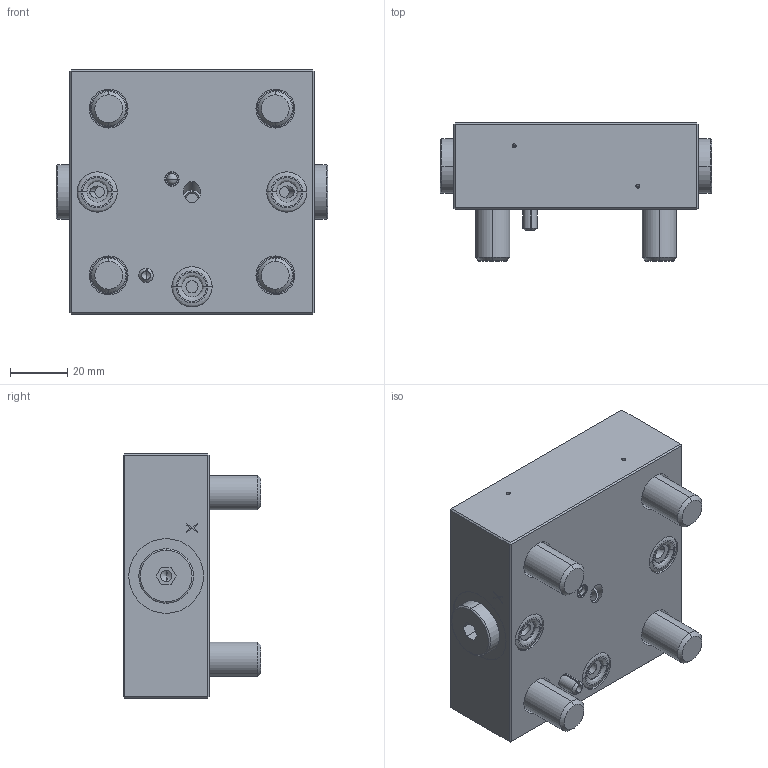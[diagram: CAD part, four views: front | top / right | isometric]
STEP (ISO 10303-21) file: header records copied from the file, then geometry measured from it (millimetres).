
FILE_DESCRIPTION (( 'STEP AP214' ), '1' );
FILE_NAME ('D25430..STEP', '2017-03-17T14:33:07', ( '' ), ( '' ), 'SwSTEP 2.0', 'SolidWorks 2016', '' );
FILE_SCHEMA (( 'AUTOMOTIVE_DESIGN' ));
Length unit declared in the file: millimetre
Products named in the file (1): D25430.
Bounding box: 94.4 x 48 x 85 mm (x, y, z)
Volume: 216413.6 mm3; surface area: 45617.9 mm2
Topology: 12 solids, 16 shells, 384 faces, 860 edges, 524 vertices
Faces by surface type: plane 156, cylinder 126, cone 50, bspline 24, torus 20, sphere 8
Entity records: 15051 total; most frequent: CARTESIAN_POINT 2235, DIRECTION 1902, ORIENTED_EDGE 1668, EDGE_CURVE 834, AXIS2_PLACEMENT_3D 751, VERTEX_POINT 524, EDGE_LOOP 450, VECTOR 400
